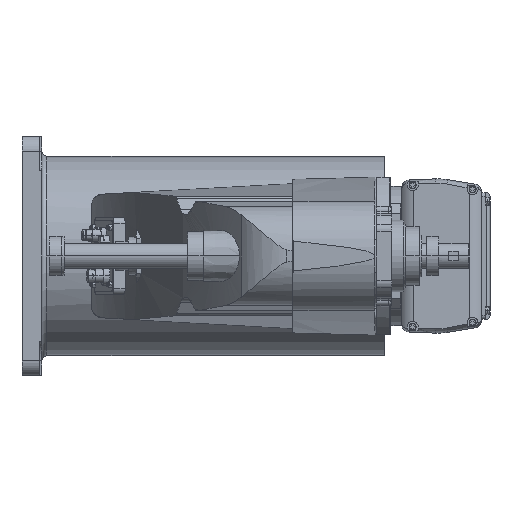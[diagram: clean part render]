
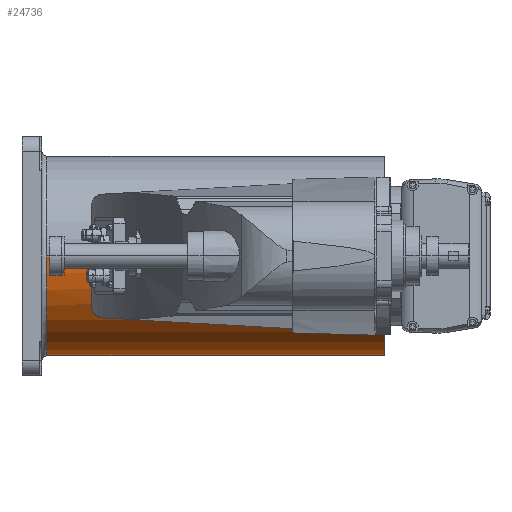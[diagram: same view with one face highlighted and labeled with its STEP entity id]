
A CAD part, left-side view. The second image highlights one B-rep face of the part: STEP entity #24736.
In plain terms, the highlighted cylindrical face has radius 100 mm (diameter 200 mm), a partial arc.
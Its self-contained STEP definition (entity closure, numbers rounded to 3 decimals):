
#8986 = EDGE_CURVE( '', #13156, #17118, #26761, .T. );
#10060 = VERTEX_POINT( '', #27972 );
#11048 = VERTEX_POINT( '', #29062 );
#11854 = VERTEX_POINT( '', #29961 );
#11902 = VERTEX_POINT( '', #30018 );
#12354 = EDGE_CURVE( '', #10060, #25704, #30509, .T. );
#13126 = EDGE_CURVE( '', #19090, #16272, #31383, .T. );
#13156 = VERTEX_POINT( '', #31418 );
#13202 = EDGE_CURVE( '', #14834, #22260, #31475, .T. );
#13548 = EDGE_CURVE( '', #25054, #17922, #31860, .T. );
#13710 = EDGE_CURVE( '', #11048, #11902, #32044, .T. );
#14834 = VERTEX_POINT( '', #33290 );
#15826 = EDGE_CURVE( '', #22260, #13156, #34385, .T. );
#15928 = EDGE_CURVE( '', #17922, #21566, #34494, .T. );
#16166 = VERTEX_POINT( '', #34752 );
#16272 = VERTEX_POINT( '', #34873 );
#16902 = EDGE_CURVE( '', #16272, #21082, #35578, .T. );
#16946 = EDGE_CURVE( '', #25704, #25054, #35622, .T. );
#17118 = VERTEX_POINT( '', #35809 );
#17922 = VERTEX_POINT( '', #36720 );
#18784 = EDGE_CURVE( '', #21566, #14834, #37684, .T. );
#19090 = VERTEX_POINT( '', #38024 );
#21082 = VERTEX_POINT( '', #40286 );
#21566 = VERTEX_POINT( '', #40832 );
#21982 = EDGE_CURVE( '', #21082, #10060, #41295, .T. );
#22260 = VERTEX_POINT( '', #41603 );
#23382 = EDGE_CURVE( '', #11854, #19090, #42847, .T. );
#24576 = EDGE_CURVE( '', #16166, #11902, #44178, .T. );
#24736 = ADVANCED_FACE( '', ( #44351 ), #44352, .T. );
#24864 = EDGE_CURVE( '', #11048, #11854, #44493, .T. );
#25054 = VERTEX_POINT( '', #44704 );
#25526 = EDGE_CURVE( '', #17118, #16166, #45228, .T. );
#25704 = VERTEX_POINT( '', #45422 );
#26761 = LINE( '', #46606, #46607 );
#27972 = CARTESIAN_POINT( '', ( -100., 363., 0. ) );
#29062 = CARTESIAN_POINT( '', ( -100., 25., 0. ) );
#29961 = CARTESIAN_POINT( '', ( -100., 218.3, 0. ) );
#30018 = CARTESIAN_POINT( '', ( 100., 25., 0. ) );
#30509 = CIRCLE( '', #51991, 100. );
#31383 = LINE( '', #53219, #53220 );
#31418 = CARTESIAN_POINT( '', ( 89.303, 62., -45. ) );
#31475 = LINE( '', #53372, #53373 );
#31860 = LINE( '', #53925, #53926 );
#32044 = CIRCLE( '', #54199, 100. );
#33290 = CARTESIAN_POINT( '', ( 75.993, 64., -65. ) );
#34385 = CIRCLE( '', #57532, 100. );
#34494 = B_SPLINE_CURVE_WITH_KNOTS( '', 3, ( #57689, #57690, #57691, #57692, #57693, #57694, #57695, #57696, #57697, #57698, #57699, #57700, #57701, #57702, #57703, #57704, #57705, #57706 ), .UNSPECIFIED., .F., .F., ( 4, 2, 2, 2, 2, 2, 2, 2, 4 ), ( 14.722, 15.472, 16.222, 16.971, 17.721, 18.842, 19.962, 21.082, 22.202 ), .UNSPECIFIED. );
#34752 = CARTESIAN_POINT( '', ( 100., 64., 0. ) );
#34873 = CARTESIAN_POINT( '', ( -88., 311.3, -47.497 ) );
#35578 = CIRCLE( '', #59254, 100. );
#35622 = CIRCLE( '', #59335, 100. );
#35809 = CARTESIAN_POINT( '', ( 89.303, 64., -45. ) );
#36720 = CARTESIAN_POINT( '', ( 66.144, 68., -75. ) );
#37684 = CIRCLE( '', #62249, 100. );
#38024 = CARTESIAN_POINT( '', ( -88., 218.3, -47.497 ) );
#40286 = CARTESIAN_POINT( '', ( -100., 311.3, 0. ) );
#40832 = CARTESIAN_POINT( '', ( 70.42, 64., -71. ) );
#41295 = LINE( '', #67449, #67450 );
#41603 = CARTESIAN_POINT( '', ( 75.993, 62., -65. ) );
#42847 = CIRCLE( '', #69641, 100. );
#44178 = LINE( '', #71581, #71582 );
#44351 = FACE_OUTER_BOUND( '', #71849, .T. );
#44352 = CYLINDRICAL_SURFACE( '', #71850, 100. );
#44493 = LINE( '', #72047, #72048 );
#44704 = CARTESIAN_POINT( '', ( 66.144, 363., -75. ) );
#45228 = CIRCLE( '', #73131, 100. );
#45422 = CARTESIAN_POINT( '', ( 0., 363., -100. ) );
#46606 = CARTESIAN_POINT( '', ( 89.303, 63., -45. ) );
#46607 = VECTOR( '', #75072, 1. );
#51991 = AXIS2_PLACEMENT_3D( '', #79207, #79208, #79209 );
#53219 = CARTESIAN_POINT( '', ( -88., 264.8, -47.497 ) );
#53220 = VECTOR( '', #80238, 1. );
#53372 = CARTESIAN_POINT( '', ( 75.993, 63., -65. ) );
#53373 = VECTOR( '', #80369, 1. );
#53925 = CARTESIAN_POINT( '', ( 66.144, 215.5, -75. ) );
#53926 = VECTOR( '', #80828, 1. );
#54199 = AXIS2_PLACEMENT_3D( '', #81086, #81087, #81088 );
#57532 = AXIS2_PLACEMENT_3D( '', #83682, #83683, #83684 );
#57689 = CARTESIAN_POINT( '', ( 66.144, 68., -75. ) );
#57690 = CARTESIAN_POINT( '', ( 66.144, 67.75, -75. ) );
#57691 = CARTESIAN_POINT( '', ( 66.171, 67.497, -74.976 ) );
#57692 = CARTESIAN_POINT( '', ( 66.277, 67.005, -74.882 ) );
#57693 = CARTESIAN_POINT( '', ( 66.356, 66.766, -74.812 ) );
#57694 = CARTESIAN_POINT( '', ( 66.555, 66.315, -74.636 ) );
#57695 = CARTESIAN_POINT( '', ( 66.674, 66.103, -74.529 ) );
#57696 = CARTESIAN_POINT( '', ( 66.938, 65.716, -74.292 ) );
#57697 = CARTESIAN_POINT( '', ( 67.082, 65.542, -74.162 ) );
#57698 = CARTESIAN_POINT( '', ( 67.446, 65.158, -73.831 ) );
#57699 = CARTESIAN_POINT( '', ( 67.688, 64.954, -73.61 ) );
#57700 = CARTESIAN_POINT( '', ( 68.203, 64.604, -73.134 ) );
#57701 = CARTESIAN_POINT( '', ( 68.475, 64.457, -72.879 ) );
#57702 = CARTESIAN_POINT( '', ( 69.031, 64.224, -72.352 ) );
#57703 = CARTESIAN_POINT( '', ( 69.316, 64.139, -72.08 ) );
#57704 = CARTESIAN_POINT( '', ( 69.877, 64.026, -71.535 ) );
#57705 = CARTESIAN_POINT( '', ( 70.155, 64., -71.263 ) );
#57706 = CARTESIAN_POINT( '', ( 70.42, 64., -71. ) );
#59254 = AXIS2_PLACEMENT_3D( '', #85029, #85030, #85031 );
#59335 = AXIS2_PLACEMENT_3D( '', #85048, #85049, #85050 );
#62249 = AXIS2_PLACEMENT_3D( '', #87510, #87511, #87512 );
#67449 = CARTESIAN_POINT( '', ( -100., 194., 0. ) );
#67450 = VECTOR( '', #91868, 1. );
#69641 = AXIS2_PLACEMENT_3D( '', #93634, #93635, #93636 );
#71581 = CARTESIAN_POINT( '', ( 100., 194., 0. ) );
#71582 = VECTOR( '', #95172, 1. );
#71849 = EDGE_LOOP( '', ( #95342, #95343, #95344, #95345, #95346, #95347, #95348, #95349, #95350, #95351, #95352, #95353, #95354, #95355, #95356, #95357 ) );
#71850 = AXIS2_PLACEMENT_3D( '', #95358, #95359, #95360 );
#72047 = CARTESIAN_POINT( '', ( -100., 194., 0. ) );
#72048 = VECTOR( '', #95490, 1. );
#73131 = AXIS2_PLACEMENT_3D( '', #96264, #96265, #96266 );
#75072 = DIRECTION( '', ( 0., 1., 0. ) );
#79207 = CARTESIAN_POINT( '', ( 0., 363., 0. ) );
#79208 = DIRECTION( '', ( 0., -1., 0. ) );
#79209 = DIRECTION( '', ( 1., 0., 0. ) );
#80238 = DIRECTION( '', ( 0., 1., 0. ) );
#80369 = DIRECTION( '', ( 0., -1., 0. ) );
#80828 = DIRECTION( '', ( 0., -1., 0. ) );
#81086 = CARTESIAN_POINT( '', ( 0., 25., 0. ) );
#81087 = DIRECTION( '', ( 0., -1., 0. ) );
#81088 = DIRECTION( '', ( 1., 0., 0. ) );
#83682 = CARTESIAN_POINT( '', ( 0., 62., 0. ) );
#83683 = DIRECTION( '', ( 0., -1., 0. ) );
#83684 = DIRECTION( '', ( 1., 0., 0. ) );
#85029 = CARTESIAN_POINT( '', ( 0., 311.3, 0. ) );
#85030 = DIRECTION( '', ( 0., 1., 0. ) );
#85031 = DIRECTION( '', ( 1., 0., 0. ) );
#85048 = CARTESIAN_POINT( '', ( 0., 363., 0. ) );
#85049 = DIRECTION( '', ( 0., -1., 0. ) );
#85050 = DIRECTION( '', ( 1., 0., 0. ) );
#87510 = CARTESIAN_POINT( '', ( 0., 64., 0. ) );
#87511 = DIRECTION( '', ( 0., -1., 0. ) );
#87512 = DIRECTION( '', ( 1., 0., 0. ) );
#91868 = DIRECTION( '', ( 0., 1., 0. ) );
#93634 = CARTESIAN_POINT( '', ( 0., 218.3, 0. ) );
#93635 = DIRECTION( '', ( 0., -1., 0. ) );
#93636 = DIRECTION( '', ( 1., 0., 0. ) );
#95172 = DIRECTION( '', ( 0., -1., 0. ) );
#95342 = ORIENTED_EDGE( '', *, *, #24576, .T. );
#95343 = ORIENTED_EDGE( '', *, *, #13710, .F. );
#95344 = ORIENTED_EDGE( '', *, *, #24864, .T. );
#95345 = ORIENTED_EDGE( '', *, *, #23382, .T. );
#95346 = ORIENTED_EDGE( '', *, *, #13126, .T. );
#95347 = ORIENTED_EDGE( '', *, *, #16902, .T. );
#95348 = ORIENTED_EDGE( '', *, *, #21982, .T. );
#95349 = ORIENTED_EDGE( '', *, *, #12354, .T. );
#95350 = ORIENTED_EDGE( '', *, *, #16946, .T. );
#95351 = ORIENTED_EDGE( '', *, *, #13548, .T. );
#95352 = ORIENTED_EDGE( '', *, *, #15928, .T. );
#95353 = ORIENTED_EDGE( '', *, *, #18784, .T. );
#95354 = ORIENTED_EDGE( '', *, *, #13202, .T. );
#95355 = ORIENTED_EDGE( '', *, *, #15826, .T. );
#95356 = ORIENTED_EDGE( '', *, *, #8986, .T. );
#95357 = ORIENTED_EDGE( '', *, *, #25526, .T. );
#95358 = CARTESIAN_POINT( '', ( 0., 194., 0. ) );
#95359 = DIRECTION( '', ( 0., 1., 0. ) );
#95360 = DIRECTION( '', ( 1., 0., 0. ) );
#95490 = DIRECTION( '', ( 0., 1., 0. ) );
#96264 = CARTESIAN_POINT( '', ( 0., 64., 0. ) );
#96265 = DIRECTION( '', ( 0., -1., 0. ) );
#96266 = DIRECTION( '', ( 1., 0., 0. ) );
